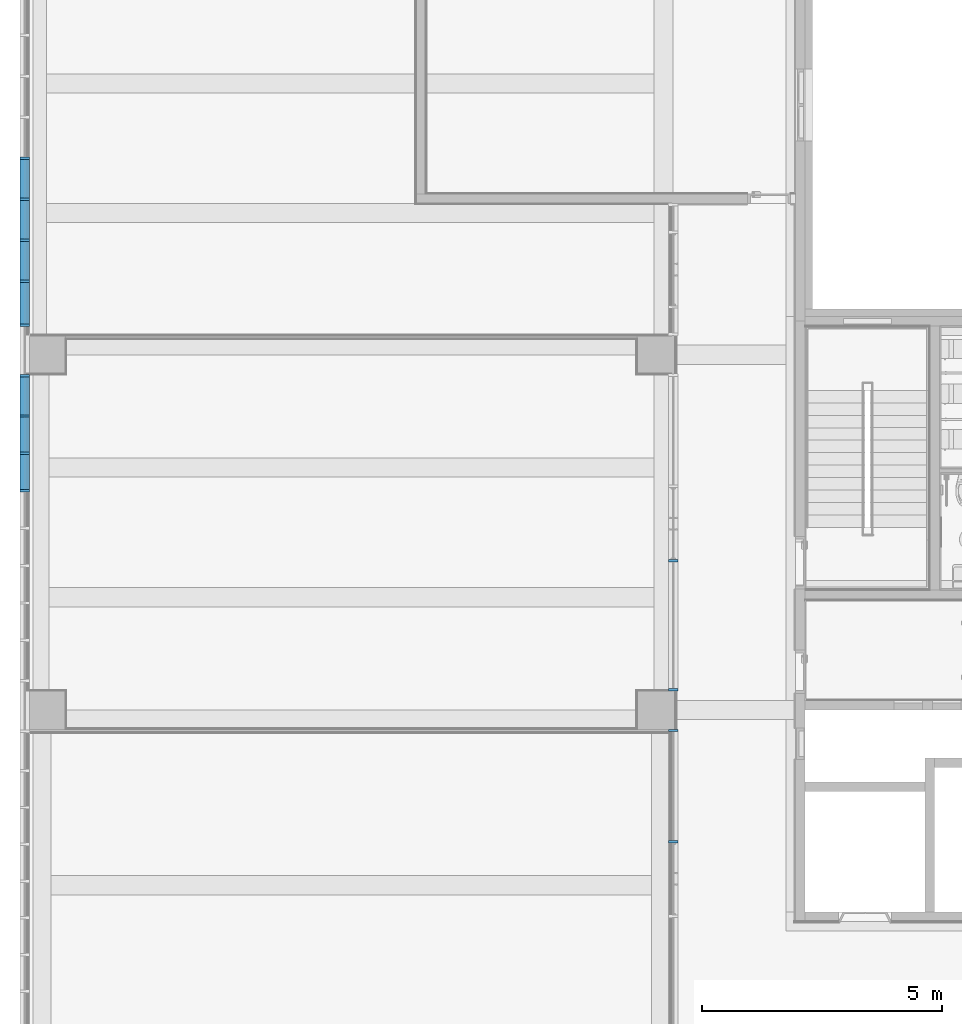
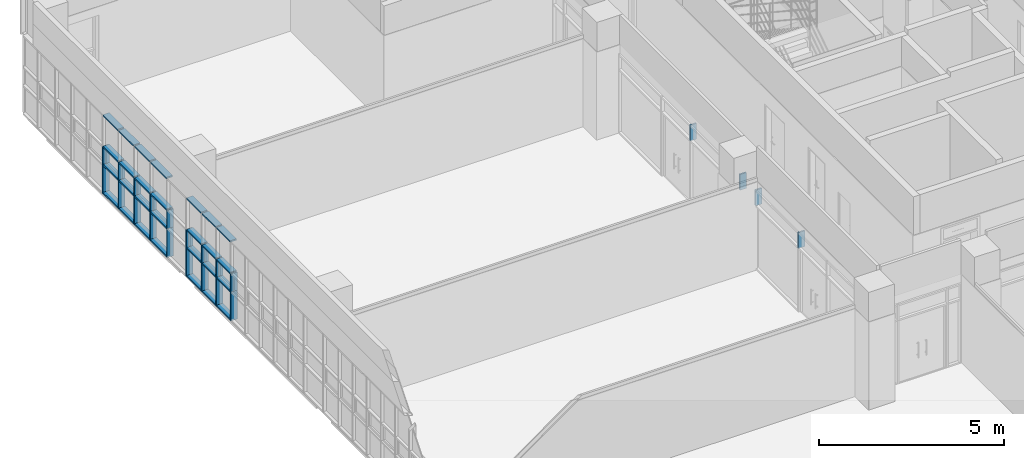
# One storey, part 19 of 76: 50 members, 3 elements without a shape of their own.
"""IFC2X3 building model written with IfcOpenShell, lengths in millimetres."""

from ifc_helpers import new_model, entity, si_unit, converted_unit, derived_unit, direction, frame, origin, origin_2d_with_axis, place, context, subcontext, project, spatial, rectangle, extrude, source, transform, mapped, material, type_object, type_shapes, element, aggregate, save


model = new_model("IFC2X3")

# Units and contexts
model_context = context("Model", 3, precision=0.01, world=origin(), true_north=direction((6.123031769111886e-17, 1.0)))
body_context = subcontext(model_context, "Body", "Model", "MODEL_VIEW")
ifc_project = project(units=[si_unit("LENGTHUNIT", "METRE", prefix="MILLI"), si_unit("AREAUNIT", "SQUARE_METRE"), si_unit("VOLUMEUNIT", "CUBIC_METRE"), converted_unit("PLANEANGLEUNIT", "DEGREE", entity("IfcRatioMeasure", 0.017453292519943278), si_unit("PLANEANGLEUNIT", "RADIAN"), dimensions=[0, 0, 0, 0, 0, 0, 0]), si_unit("MASSUNIT", "GRAM", prefix="KILO"), derived_unit("MASSDENSITYUNIT", [(si_unit("MASSUNIT", "GRAM", prefix="KILO"), 1), (si_unit("LENGTHUNIT", "METRE"), -3)]), derived_unit("MOMENTOFINERTIAUNIT", [(si_unit("LENGTHUNIT", "METRE"), 4)]), si_unit("TIMEUNIT", "SECOND"), si_unit("FREQUENCYUNIT", "HERTZ"), si_unit("THERMODYNAMICTEMPERATUREUNIT", "DEGREE_CELSIUS"), derived_unit("THERMALTRANSMITTANCEUNIT", [(si_unit("MASSUNIT", "GRAM", prefix="KILO"), 1), (si_unit("THERMODYNAMICTEMPERATUREUNIT", "KELVIN"), -1), (si_unit("TIMEUNIT", "SECOND"), -3)]), derived_unit("VOLUMETRICFLOWRATEUNIT", [(si_unit("LENGTHUNIT", "METRE"), 3), (si_unit("TIMEUNIT", "SECOND"), -1)]), derived_unit("MASSFLOWRATEUNIT", [(si_unit("MASSUNIT", "GRAM", prefix="KILO"), 1), (si_unit("TIMEUNIT", "SECOND"), -1)]), derived_unit("ROTATIONALFREQUENCYUNIT", [(si_unit("TIMEUNIT", "SECOND"), -1)]), si_unit("ELECTRICCURRENTUNIT", "AMPERE"), si_unit("ELECTRICVOLTAGEUNIT", "VOLT"), si_unit("POWERUNIT", "WATT"), si_unit("FORCEUNIT", "NEWTON", prefix="KILO"), si_unit("ILLUMINANCEUNIT", "LUX"), si_unit("LUMINOUSFLUXUNIT", "LUMEN"), si_unit("LUMINOUSINTENSITYUNIT", "CANDELA"), derived_unit("USERDEFINED", [(si_unit("MASSUNIT", "GRAM", prefix="KILO"), -1), (si_unit("LENGTHUNIT", "METRE"), -2), (si_unit("TIMEUNIT", "SECOND"), 3), (si_unit("LUMINOUSFLUXUNIT", "LUMEN"), 1)]), derived_unit("SOUNDPOWERUNIT", [(si_unit("MASSUNIT", "GRAM", prefix="KILO"), 1), (si_unit("LENGTHUNIT", "METRE"), 2), (si_unit("TIMEUNIT", "SECOND"), -3)]), derived_unit("SOUNDPRESSUREUNIT", [(si_unit("MASSUNIT", "GRAM", prefix="KILO"), 1), (si_unit("LENGTHUNIT", "METRE"), -1), (si_unit("TIMEUNIT", "SECOND"), -2)]), derived_unit("LINEARVELOCITYUNIT", [(si_unit("LENGTHUNIT", "METRE"), 1), (si_unit("TIMEUNIT", "SECOND"), -1)]), si_unit("PRESSUREUNIT", "PASCAL"), derived_unit("USERDEFINED", [(si_unit("LENGTHUNIT", "METRE"), -2), (si_unit("MASSUNIT", "GRAM", prefix="KILO"), 1), (si_unit("TIMEUNIT", "SECOND"), -2)]), derived_unit("LINEARFORCEUNIT", [(si_unit("MASSUNIT", "GRAM", prefix="KILO"), 1), (si_unit("LENGTHUNIT", "METRE"), 1), (si_unit("TIMEUNIT", "SECOND"), -2), (si_unit("LENGTHUNIT", "METRE"), -1)]), derived_unit("PLANARFORCEUNIT", [(si_unit("MASSUNIT", "GRAM", prefix="KILO"), 1), (si_unit("LENGTHUNIT", "METRE"), 1), (si_unit("TIMEUNIT", "SECOND"), -2), (si_unit("LENGTHUNIT", "METRE"), -2)])], contexts=[model_context])

# Site, building, storey
site_placement = place(None, frame((-14167.972527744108, -657.2125860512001, 0.0)))
site = spatial("IfcSite", under=ifc_project, at=site_placement, Name="Default", CompositionType="ELEMENT")
building_placement = place(site_placement, origin())
building = spatial("IfcBuilding", under=site, at=building_placement, Name="Sample Building", CompositionType="ELEMENT")
storey_placement = place(building_placement, frame((0.0, 0.0, 9300.0)))
storey = spatial("IfcBuildingStorey", under=building, at=storey_placement, Name="지상 3층", CompositionType="ELEMENT", Elevation=9300.000000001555)

# Curtain wall, members
curtain_wall_type = type_object("IfcCurtainWallType", Name="커튼월:CW112-스테인리스 스틸 커튼월", PredefinedType="NOTDEFINED")
curtain_wall_1_placement = place(storey_placement, frame((0.0, 0.0, -9300.0)))
curtain_wall_1 = element("IfcCurtainWall", 1, at=curtain_wall_1_placement, inside=storey, type_object=curtain_wall_type, Name="커튼월:CW112-스테인리스 스틸 커튼월", ObjectType="커튼월:CW112-스테인리스 스틸 커튼월")
ifc_material = material(Name="<Unnamed>")
member_type_1 = type_object("IfcMemberType", Name="직사각형 멀리언:CW200-직사각형 멀리언 50x200mm", PredefinedType="MULLION", material=ifc_material)
shared_shape_1 = source(origin(), body_context, "Body", "SweptSolid", [
    extrude(rectangle(XDim=200.0, YDim=50.0, at=origin_2d_with_axis()), frame((0.0, 0.0, -600.0), z_axis=(0.0, 0.0, 1.0), x_axis=(0.0, -1.0, 0.0)), (0.0, 0.0, 1.0), 600.0),
])
type_shapes(member_type_1, [shared_shape_1])
member_1_placement = place(curtain_wall_1_placement, frame((14018.587904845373, 31447.817707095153, 10330.0), z_axis=(0.0, 0.0, -1.0), x_axis=(0.0, -1.0, 0.0)))
member_1 = element("IfcMember", 2, at=member_1_placement, type_object=member_type_1, material=ifc_material, Name="직사각형 멀리언:CW200-직사각형 멀리언 50x200mm", ObjectType="직사각형 멀리언:CW200-직사각형 멀리언 50x200mm", context=body_context, shape_type="MappedRepresentation", body=[
    mapped(shared_shape_1, transform((0.0, 0.0, 0.0), scale=1.0)),
])
member_2_placement = place(curtain_wall_1_placement, frame((14018.587904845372, 30593.817707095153, 10330.0), z_axis=(0.0, 0.0, -1.0), x_axis=(0.0, -1.0, 0.0)))
member_2 = element("IfcMember", 3, at=member_2_placement, type_object=member_type_1, material=ifc_material, Name="직사각형 멀리언:CW200-직사각형 멀리언 50x200mm", ObjectType="직사각형 멀리언:CW200-직사각형 멀리언 50x200mm", context=body_context, shape_type="MappedRepresentation", body=[
    mapped(shared_shape_1, transform((0.0, 0.0, 0.0), scale=1.0)),
])
member_3_placement = place(curtain_wall_1_placement, frame((14018.587904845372, 29739.81770709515, 10330.0), z_axis=(0.0, 0.0, -1.0), x_axis=(0.0, -1.0, 0.0)))
member_3 = element("IfcMember", 4, at=member_3_placement, type_object=member_type_1, material=ifc_material, Name="직사각형 멀리언:CW200-직사각형 멀리언 50x200mm", ObjectType="직사각형 멀리언:CW200-직사각형 멀리언 50x200mm", context=body_context, shape_type="MappedRepresentation", body=[
    mapped(shared_shape_1, transform((0.0, 0.0, 0.0), scale=1.0)),
])
member_4_placement = place(curtain_wall_1_placement, frame((14018.58790484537, 28885.81770709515, 10330.0), z_axis=(0.0, 0.0, -1.0), x_axis=(0.0, -1.0, 0.0)))
member_4 = element("IfcMember", 5, at=member_4_placement, type_object=member_type_1, material=ifc_material, Name="직사각형 멀리언:CW200-직사각형 멀리언 50x200mm", ObjectType="직사각형 멀리언:CW200-직사각형 멀리언 50x200mm", context=body_context, shape_type="MappedRepresentation", body=[
    mapped(shared_shape_1, transform((0.0, 0.0, 0.0), scale=1.0)),
])
member_5_placement = place(curtain_wall_1_placement, frame((14018.58790484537, 27971.81770709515, 10330.0), z_axis=(0.0, 0.0, -1.0), x_axis=(0.0, -1.0, 0.0)))
member_5 = element("IfcMember", 6, at=member_5_placement, type_object=member_type_1, material=ifc_material, Name="직사각형 멀리언:CW200-직사각형 멀리언 50x200mm", ObjectType="직사각형 멀리언:CW200-직사각형 멀리언 50x200mm", context=body_context, shape_type="MappedRepresentation", body=[
    mapped(shared_shape_1, transform((0.0, 0.0, 0.0), scale=1.0)),
])
member_6_placement = place(curtain_wall_1_placement, frame((14018.587904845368, 26921.81770709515, 10330.0), z_axis=(0.0, 0.0, -1.0), x_axis=(0.0, -1.0, 0.0)))
member_6 = element("IfcMember", 7, at=member_6_placement, type_object=member_type_1, material=ifc_material, Name="직사각형 멀리언:CW200-직사각형 멀리언 50x200mm", ObjectType="직사각형 멀리언:CW200-직사각형 멀리언 50x200mm", context=body_context, shape_type="MappedRepresentation", body=[
    mapped(shared_shape_1, transform((0.0, 0.0, 0.0), scale=1.0)),
])
member_7_placement = place(curtain_wall_1_placement, frame((14018.587904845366, 26082.81770709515, 10330.0), z_axis=(0.0, 0.0, -1.0), x_axis=(0.0, -1.0, 0.0)))
member_7 = element("IfcMember", 8, at=member_7_placement, type_object=member_type_1, material=ifc_material, Name="직사각형 멀리언:CW200-직사각형 멀리언 50x200mm", ObjectType="직사각형 멀리언:CW200-직사각형 멀리언 50x200mm", context=body_context, shape_type="MappedRepresentation", body=[
    mapped(shared_shape_1, transform((0.0, 0.0, 0.0), scale=1.0)),
])
member_8_placement = place(curtain_wall_1_placement, frame((14018.587904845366, 25303.81770709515, 10330.0), z_axis=(0.0, 0.0, -1.0), x_axis=(0.0, -1.0, 0.0)))
member_8 = element("IfcMember", 9, at=member_8_placement, type_object=member_type_1, material=ifc_material, Name="직사각형 멀리언:CW200-직사각형 멀리언 50x200mm", ObjectType="직사각형 멀리언:CW200-직사각형 멀리언 50x200mm", context=body_context, shape_type="MappedRepresentation", body=[
    mapped(shared_shape_1, transform((0.0, 0.0, 0.0), scale=1.0)),
])
member_9_placement = place(curtain_wall_1_placement, frame((14018.587904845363, 24524.81770709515, 10330.0), z_axis=(0.0, 0.0, -1.0), x_axis=(0.0, -1.0, 0.0)))
member_9 = element("IfcMember", 10, at=member_9_placement, type_object=member_type_1, material=ifc_material, Name="직사각형 멀리언:CW200-직사각형 멀리언 50x200mm", ObjectType="직사각형 멀리언:CW200-직사각형 멀리언 50x200mm", context=body_context, shape_type="MappedRepresentation", body=[
    mapped(shared_shape_1, transform((0.0, 0.0, 0.0), scale=1.0)),
])

# Curtain wall, member
curtain_wall_2_placement = place(storey_placement, frame((0.0, 0.0, -9300.0)))
curtain_wall_2 = element("IfcCurtainWall", 11, at=curtain_wall_2_placement, inside=storey, type_object=curtain_wall_type, Name="커튼월:CW112-스테인리스 스틸 커튼월", ObjectType="커튼월:CW112-스테인리스 스틸 커튼월")
member_type_2 = type_object("IfcMemberType", Name="직사각형 멀리언:CW200-직사각형 멀리언 50x200mm", PredefinedType="MULLION", material=ifc_material)
shared_shape_2 = source(origin(), body_context, "Body", "SweptSolid", [
    extrude(rectangle(XDim=200.0, YDim=50.0, at=origin_2d_with_axis()), frame((-25.0, 0.0, -520.0), z_axis=(0.0, 0.0, 1.0), x_axis=(0.0, -1.0, 0.0)), (0.0, 0.0, 1.0), 520.0000000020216),
])
type_shapes(member_type_2, [shared_shape_2])
member_10_placement = place(curtain_wall_2_placement, frame((27522.955105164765, 19557.212617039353, 12000.0), z_axis=(0.0, 0.0, 1.0), x_axis=(0.0, 1.0, 0.0)))
member_10 = element("IfcMember", 12, at=member_10_placement, type_object=member_type_2, material=ifc_material, Name="직사각형 멀리언:CW200-직사각형 멀리언 50x200mm", ObjectType="직사각형 멀리언:CW200-직사각형 멀리언 50x200mm", context=body_context, shape_type="MappedRepresentation", body=[
    mapped(shared_shape_2, transform((0.0, 0.0, 0.0), scale=1.0)),
])

# Curtain wall, members
curtain_wall_3_placement = place(storey_placement, frame((0.0, 0.0, -9300.0)))
curtain_wall_3 = element("IfcCurtainWall", 13, at=curtain_wall_3_placement, inside=storey, type_object=curtain_wall_type, Name="커튼월:CW112-스테인리스 스틸 커튼월", ObjectType="커튼월:CW112-스테인리스 스틸 커튼월")
member_type_3 = type_object("IfcMemberType", Name="직사각형 멀리언:CW200-직사각형 멀리언 50x200mm", PredefinedType="MULLION", material=ifc_material)
shared_shape_3 = source(origin(), body_context, "Body", "SweptSolid", [
    extrude(rectangle(XDim=200.0, YDim=50.0, at=origin_2d_with_axis()), frame((-25.0, 0.0, -520.0), z_axis=(0.0, 0.0, 1.0), x_axis=(0.0, -1.0, 0.0)), (0.0, 0.0, 1.0), 520.0000000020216),
])
type_shapes(member_type_3, [shared_shape_3])
member_11_placement = place(curtain_wall_3_placement, frame((27522.95510516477, 20357.212307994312, 11480.0), z_axis=(0.0, 0.0, -1.0), x_axis=(0.0, -1.0, 0.0)))
member_11 = element("IfcMember", 14, at=member_11_placement, type_object=member_type_3, material=ifc_material, Name="직사각형 멀리언:CW200-직사각형 멀리언 50x200mm", ObjectType="직사각형 멀리언:CW200-직사각형 멀리언 50x200mm", context=body_context, shape_type="MappedRepresentation", body=[
    mapped(shared_shape_3, transform((0.0, 0.0, 0.0), scale=1.0)),
])
member_type_4 = type_object("IfcMemberType", Name="직사각형 멀리언:CW200-직사각형 멀리언 50x200mm", PredefinedType="MULLION", material=ifc_material)
shared_shape_4 = source(origin(), body_context, "Body", "SweptSolid", [
    extrude(rectangle(XDim=200.0, YDim=50.0, at=origin_2d_with_axis()), frame((0.0, 0.0, -520.0), z_axis=(0.0, 0.0, 1.0), x_axis=(0.0, -1.0, 0.0)), (0.0, 0.0, 1.0), 520.0000000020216),
])
type_shapes(member_type_4, [shared_shape_4])
member_12_placement = place(curtain_wall_3_placement, frame((27522.955105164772, 23067.212307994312, 11480.0), z_axis=(0.0, 0.0, -1.0), x_axis=(0.0, -1.0, 0.0)))
member_12 = element("IfcMember", 15, at=member_12_placement, type_object=member_type_4, material=ifc_material, Name="직사각형 멀리언:CW200-직사각형 멀리언 50x200mm", ObjectType="직사각형 멀리언:CW200-직사각형 멀리언 50x200mm", context=body_context, shape_type="MappedRepresentation", body=[
    mapped(shared_shape_4, transform((0.0, 0.0, 0.0), scale=1.0)),
])
aggregate(curtain_wall_3, [member_11, member_12])

# Member
member_13_placement = place(curtain_wall_2_placement, frame((27522.95510516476, 17217.17762439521, 11480.0), z_axis=(0.0, 0.0, -1.0), x_axis=(0.0, -1.0, 0.0)))
member_13 = element("IfcMember", 16, at=member_13_placement, type_object=member_type_4, material=ifc_material, Name="직사각형 멀리언:CW200-직사각형 멀리언 50x200mm", ObjectType="직사각형 멀리언:CW200-직사각형 멀리언 50x200mm", context=body_context, shape_type="MappedRepresentation", body=[
    mapped(shared_shape_4, transform((0.0, 0.0, 0.0), scale=1.0)),
])

aggregate(curtain_wall_2, [member_10, member_13])

member_type_5 = type_object("IfcMemberType", Name="직사각형 멀리언:CW200-직사각형 멀리언 50x200mm", PredefinedType="MULLION", material=ifc_material)
shared_shape_5 = source(origin(), body_context, "Body", "SweptSolid", [
    extrude(rectangle(XDim=200.0, YDim=50.0, at=origin_2d_with_axis()), frame((0.0, 0.0, -950.0), z_axis=(0.0, 0.0, 1.0), x_axis=(0.0, -1.0, 0.0)), (0.0, 0.0, 1.0), 949.9999999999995),
])
type_shapes(member_type_5, [shared_shape_5])
member_14_placement = place(curtain_wall_1_placement, frame((14018.587904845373, 31447.817707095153, 9380.0), z_axis=(0.0, 0.0, -1.0), x_axis=(0.0, -1.0, 0.0)))
member_14 = element("IfcMember", 17, at=member_14_placement, type_object=member_type_5, material=ifc_material, Name="직사각형 멀리언:CW200-직사각형 멀리언 50x200mm", ObjectType="직사각형 멀리언:CW200-직사각형 멀리언 50x200mm", context=body_context, shape_type="MappedRepresentation", body=[
    mapped(shared_shape_5, transform((0.0, 0.0, 0.0), scale=1.0)),
])

member_15_placement = place(curtain_wall_1_placement, frame((14018.587904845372, 30593.817707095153, 9380.0), z_axis=(0.0, 0.0, -1.0), x_axis=(0.0, -1.0, 0.0)))
member_15 = element("IfcMember", 18, at=member_15_placement, type_object=member_type_5, material=ifc_material, Name="직사각형 멀리언:CW200-직사각형 멀리언 50x200mm", ObjectType="직사각형 멀리언:CW200-직사각형 멀리언 50x200mm", context=body_context, shape_type="MappedRepresentation", body=[
    mapped(shared_shape_5, transform((0.0, 0.0, 0.0), scale=1.0)),
])

member_16_placement = place(curtain_wall_1_placement, frame((14018.587904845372, 29739.81770709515, 9380.0), z_axis=(0.0, 0.0, -1.0), x_axis=(0.0, -1.0, 0.0)))
member_16 = element("IfcMember", 19, at=member_16_placement, type_object=member_type_5, material=ifc_material, Name="직사각형 멀리언:CW200-직사각형 멀리언 50x200mm", ObjectType="직사각형 멀리언:CW200-직사각형 멀리언 50x200mm", context=body_context, shape_type="MappedRepresentation", body=[
    mapped(shared_shape_5, transform((0.0, 0.0, 0.0), scale=1.0)),
])

member_17_placement = place(curtain_wall_1_placement, frame((14018.58790484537, 28885.81770709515, 9380.0), z_axis=(0.0, 0.0, -1.0), x_axis=(0.0, -1.0, 0.0)))
member_17 = element("IfcMember", 20, at=member_17_placement, type_object=member_type_5, material=ifc_material, Name="직사각형 멀리언:CW200-직사각형 멀리언 50x200mm", ObjectType="직사각형 멀리언:CW200-직사각형 멀리언 50x200mm", context=body_context, shape_type="MappedRepresentation", body=[
    mapped(shared_shape_5, transform((0.0, 0.0, 0.0), scale=1.0)),
])

member_18_placement = place(curtain_wall_1_placement, frame((14018.58790484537, 27971.81770709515, 9380.0), z_axis=(0.0, 0.0, -1.0), x_axis=(0.0, -1.0, 0.0)))
member_18 = element("IfcMember", 21, at=member_18_placement, type_object=member_type_5, material=ifc_material, Name="직사각형 멀리언:CW200-직사각형 멀리언 50x200mm", ObjectType="직사각형 멀리언:CW200-직사각형 멀리언 50x200mm", context=body_context, shape_type="MappedRepresentation", body=[
    mapped(shared_shape_5, transform((0.0, 0.0, 0.0), scale=1.0)),
])

member_19_placement = place(curtain_wall_1_placement, frame((14018.587904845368, 26921.81770709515, 9380.0), z_axis=(0.0, 0.0, -1.0), x_axis=(0.0, -1.0, 0.0)))
member_19 = element("IfcMember", 22, at=member_19_placement, type_object=member_type_5, material=ifc_material, Name="직사각형 멀리언:CW200-직사각형 멀리언 50x200mm", ObjectType="직사각형 멀리언:CW200-직사각형 멀리언 50x200mm", context=body_context, shape_type="MappedRepresentation", body=[
    mapped(shared_shape_5, transform((0.0, 0.0, 0.0), scale=1.0)),
])

member_20_placement = place(curtain_wall_1_placement, frame((14018.587904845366, 26082.81770709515, 9380.0), z_axis=(0.0, 0.0, -1.0), x_axis=(0.0, -1.0, 0.0)))
member_20 = element("IfcMember", 23, at=member_20_placement, type_object=member_type_5, material=ifc_material, Name="직사각형 멀리언:CW200-직사각형 멀리언 50x200mm", ObjectType="직사각형 멀리언:CW200-직사각형 멀리언 50x200mm", context=body_context, shape_type="MappedRepresentation", body=[
    mapped(shared_shape_5, transform((0.0, 0.0, 0.0), scale=1.0)),
])

member_21_placement = place(curtain_wall_1_placement, frame((14018.587904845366, 25303.81770709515, 9380.0), z_axis=(0.0, 0.0, -1.0), x_axis=(0.0, -1.0, 0.0)))
member_21 = element("IfcMember", 24, at=member_21_placement, type_object=member_type_5, material=ifc_material, Name="직사각형 멀리언:CW200-직사각형 멀리언 50x200mm", ObjectType="직사각형 멀리언:CW200-직사각형 멀리언 50x200mm", context=body_context, shape_type="MappedRepresentation", body=[
    mapped(shared_shape_5, transform((0.0, 0.0, 0.0), scale=1.0)),
])

member_22_placement = place(curtain_wall_1_placement, frame((14018.587904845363, 24524.81770709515, 9380.0), z_axis=(0.0, 0.0, -1.0), x_axis=(0.0, -1.0, 0.0)))
member_22 = element("IfcMember", 25, at=member_22_placement, type_object=member_type_5, material=ifc_material, Name="직사각형 멀리언:CW200-직사각형 멀리언 50x200mm", ObjectType="직사각형 멀리언:CW200-직사각형 멀리언 50x200mm", context=body_context, shape_type="MappedRepresentation", body=[
    mapped(shared_shape_5, transform((0.0, 0.0, 0.0), scale=1.0)),
])

member_type_6 = type_object("IfcMemberType", Name="직사각형 멀리언:CW200-직사각형 멀리언 50x200mm", PredefinedType="MULLION", material=ifc_material)
shared_shape_6 = source(origin(), body_context, "Body", "SweptSolid", [
    extrude(rectangle(XDim=200.0, YDim=50.0, at=origin_2d_with_axis()), frame((-25.0, 0.0, -804.0), z_axis=(0.0, 0.0, 1.0), x_axis=(0.0, -1.0, 0.0)), (0.0, 0.0, 1.0), 804.0000000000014),
])
type_shapes(member_type_6, [shared_shape_6])
member_23_placement = place(curtain_wall_1_placement, frame((14018.587904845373, 31422.817707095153, 9380.0), z_axis=(0.0, 1.0, 0.0), x_axis=(0.0, 0.0, -1.0)))
member_23 = element("IfcMember", 26, at=member_23_placement, type_object=member_type_6, material=ifc_material, Name="직사각형 멀리언:CW200-직사각형 멀리언 50x200mm", ObjectType="직사각형 멀리언:CW200-직사각형 멀리언 50x200mm", context=body_context, shape_type="MappedRepresentation", body=[
    mapped(shared_shape_6, transform((0.0, 0.0, 0.0), scale=1.0)),
])

member_24_placement = place(curtain_wall_1_placement, frame((14018.587904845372, 30568.817707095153, 9380.0), z_axis=(0.0, 1.0, 0.0), x_axis=(0.0, 0.0, -1.0)))
member_24 = element("IfcMember", 27, at=member_24_placement, type_object=member_type_6, material=ifc_material, Name="직사각형 멀리언:CW200-직사각형 멀리언 50x200mm", ObjectType="직사각형 멀리언:CW200-직사각형 멀리언 50x200mm", context=body_context, shape_type="MappedRepresentation", body=[
    mapped(shared_shape_6, transform((0.0, 0.0, 0.0), scale=1.0)),
])

member_25_placement = place(curtain_wall_1_placement, frame((14018.587904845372, 29714.817707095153, 9380.0), z_axis=(0.0, 1.0, 0.0), x_axis=(0.0, 0.0, -1.0)))
member_25 = element("IfcMember", 28, at=member_25_placement, type_object=member_type_6, material=ifc_material, Name="직사각형 멀리언:CW200-직사각형 멀리언 50x200mm", ObjectType="직사각형 멀리언:CW200-직사각형 멀리언 50x200mm", context=body_context, shape_type="MappedRepresentation", body=[
    mapped(shared_shape_6, transform((0.0, 0.0, 0.0), scale=1.0)),
])

member_type_7 = type_object("IfcMemberType", Name="직사각형 멀리언:CW200-직사각형 멀리언 50x200mm", PredefinedType="MULLION", material=ifc_material)
shared_shape_7 = source(origin(), body_context, "Body", "SweptSolid", [
    extrude(rectangle(XDim=200.0, YDim=50.0, at=origin_2d_with_axis()), frame((0.0, 0.0, -804.0), z_axis=(0.0, 0.0, 1.0), x_axis=(0.0, -1.0, 0.0)), (0.0, 0.0, 1.0), 803.9999999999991),
])
type_shapes(member_type_7, [shared_shape_7])
member_26_placement = place(curtain_wall_1_placement, frame((14018.587904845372, 30618.81770709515, 10330.0), z_axis=(0.0, -1.0, 0.0), x_axis=(0.0, 0.0, 1.0)))
member_26 = element("IfcMember", 29, at=member_26_placement, type_object=member_type_7, material=ifc_material, Name="직사각형 멀리언:CW200-직사각형 멀리언 50x200mm", ObjectType="직사각형 멀리언:CW200-직사각형 멀리언 50x200mm", context=body_context, shape_type="MappedRepresentation", body=[
    mapped(shared_shape_7, transform((0.0, 0.0, 0.0), scale=1.0)),
])

member_27_placement = place(curtain_wall_1_placement, frame((14018.587904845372, 30618.81770709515, 10930.0), z_axis=(0.0, -1.0, 0.0), x_axis=(0.0, 0.0, 1.0)))
member_27 = element("IfcMember", 30, at=member_27_placement, type_object=member_type_7, material=ifc_material, Name="직사각형 멀리언:CW200-직사각형 멀리언 50x200mm", ObjectType="직사각형 멀리언:CW200-직사각형 멀리언 50x200mm", context=body_context, shape_type="MappedRepresentation", body=[
    mapped(shared_shape_7, transform((0.0, 0.0, 0.0), scale=1.0)),
])

member_28_placement = place(curtain_wall_1_placement, frame((14018.587904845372, 29764.81770709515, 10330.0), z_axis=(0.0, -1.0, 0.0), x_axis=(0.0, 0.0, 1.0)))
member_28 = element("IfcMember", 31, at=member_28_placement, type_object=member_type_7, material=ifc_material, Name="직사각형 멀리언:CW200-직사각형 멀리언 50x200mm", ObjectType="직사각형 멀리언:CW200-직사각형 멀리언 50x200mm", context=body_context, shape_type="MappedRepresentation", body=[
    mapped(shared_shape_7, transform((0.0, 0.0, 0.0), scale=1.0)),
])

member_29_placement = place(curtain_wall_1_placement, frame((14018.587904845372, 29764.81770709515, 10930.0), z_axis=(0.0, -1.0, 0.0), x_axis=(0.0, 0.0, 1.0)))
member_29 = element("IfcMember", 32, at=member_29_placement, type_object=member_type_7, material=ifc_material, Name="직사각형 멀리언:CW200-직사각형 멀리언 50x200mm", ObjectType="직사각형 멀리언:CW200-직사각형 멀리언 50x200mm", context=body_context, shape_type="MappedRepresentation", body=[
    mapped(shared_shape_7, transform((0.0, 0.0, 0.0), scale=1.0)),
])

member_30_placement = place(curtain_wall_1_placement, frame((14018.58790484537, 28910.81770709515, 10330.0), z_axis=(0.0, -1.0, 0.0), x_axis=(0.0, 0.0, 1.0)))
member_30 = element("IfcMember", 33, at=member_30_placement, type_object=member_type_7, material=ifc_material, Name="직사각형 멀리언:CW200-직사각형 멀리언 50x200mm", ObjectType="직사각형 멀리언:CW200-직사각형 멀리언 50x200mm", context=body_context, shape_type="MappedRepresentation", body=[
    mapped(shared_shape_7, transform((0.0, 0.0, 0.0), scale=1.0)),
])

member_31_placement = place(curtain_wall_1_placement, frame((14018.58790484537, 28910.81770709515, 10930.0), z_axis=(0.0, -1.0, 0.0), x_axis=(0.0, 0.0, 1.0)))
member_31 = element("IfcMember", 34, at=member_31_placement, type_object=member_type_7, material=ifc_material, Name="직사각형 멀리언:CW200-직사각형 멀리언 50x200mm", ObjectType="직사각형 멀리언:CW200-직사각형 멀리언 50x200mm", context=body_context, shape_type="MappedRepresentation", body=[
    mapped(shared_shape_7, transform((0.0, 0.0, 0.0), scale=1.0)),
])

member_type_8 = type_object("IfcMemberType", Name="직사각형 멀리언:CW200-직사각형 멀리언 50x200mm", PredefinedType="MULLION", material=ifc_material)
shared_shape_8 = source(origin(), body_context, "Body", "SweptSolid", [
    extrude(rectangle(XDim=200.0, YDim=50.0, at=origin_2d_with_axis()), frame((-25.0, 0.0, -804.0), z_axis=(0.0, 0.0, 1.0), x_axis=(0.0, -1.0, 0.0)), (0.0, 0.0, 1.0), 803.9999999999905),
])
type_shapes(member_type_8, [shared_shape_8])
member_32_placement = place(curtain_wall_1_placement, frame((14018.587904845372, 30618.81770709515, 12000.0), z_axis=(0.0, -1.0, 0.0), x_axis=(0.0, 0.0, 1.0)))
member_32 = element("IfcMember", 35, at=member_32_placement, type_object=member_type_8, material=ifc_material, Name="직사각형 멀리언:CW200-직사각형 멀리언 50x200mm", ObjectType="직사각형 멀리언:CW200-직사각형 멀리언 50x200mm", context=body_context, shape_type="MappedRepresentation", body=[
    mapped(shared_shape_8, transform((0.0, 0.0, 0.0), scale=1.0)),
])

member_33_placement = place(curtain_wall_1_placement, frame((14018.587904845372, 29764.81770709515, 12000.0), z_axis=(0.0, -1.0, 0.0), x_axis=(0.0, 0.0, 1.0)))
member_33 = element("IfcMember", 36, at=member_33_placement, type_object=member_type_8, material=ifc_material, Name="직사각형 멀리언:CW200-직사각형 멀리언 50x200mm", ObjectType="직사각형 멀리언:CW200-직사각형 멀리언 50x200mm", context=body_context, shape_type="MappedRepresentation", body=[
    mapped(shared_shape_8, transform((0.0, 0.0, 0.0), scale=1.0)),
])

member_34_placement = place(curtain_wall_1_placement, frame((14018.58790484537, 28910.81770709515, 12000.0), z_axis=(0.0, -1.0, 0.0), x_axis=(0.0, 0.0, 1.0)))
member_34 = element("IfcMember", 37, at=member_34_placement, type_object=member_type_8, material=ifc_material, Name="직사각형 멀리언:CW200-직사각형 멀리언 50x200mm", ObjectType="직사각형 멀리언:CW200-직사각형 멀리언 50x200mm", context=body_context, shape_type="MappedRepresentation", body=[
    mapped(shared_shape_8, transform((0.0, 0.0, 0.0), scale=1.0)),
])

member_type_9 = type_object("IfcMemberType", Name="직사각형 멀리언:CW200-직사각형 멀리언 50x200mm", PredefinedType="MULLION", material=ifc_material)
shared_shape_9 = source(origin(), body_context, "Body", "SweptSolid", [
    extrude(rectangle(XDim=200.0, YDim=50.0, at=origin_2d_with_axis()), frame((-25.0, 0.0, -864.0), z_axis=(0.0, 0.0, 1.0), x_axis=(0.0, -1.0, 0.0)), (0.0, 0.0, 1.0), 864.0000000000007),
])
type_shapes(member_type_9, [shared_shape_9])
member_35_placement = place(curtain_wall_1_placement, frame((14018.58790484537, 28860.81770709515, 9380.0), z_axis=(0.0, 1.0, 0.0), x_axis=(0.0, 0.0, -1.0)))
member_35 = element("IfcMember", 38, at=member_35_placement, type_object=member_type_9, material=ifc_material, Name="직사각형 멀리언:CW200-직사각형 멀리언 50x200mm", ObjectType="직사각형 멀리언:CW200-직사각형 멀리언 50x200mm", context=body_context, shape_type="MappedRepresentation", body=[
    mapped(shared_shape_9, transform((0.0, 0.0, 0.0), scale=1.0)),
])

member_type_10 = type_object("IfcMemberType", Name="직사각형 멀리언:CW200-직사각형 멀리언 50x200mm", PredefinedType="MULLION", material=ifc_material)
shared_shape_10 = source(origin(), body_context, "Body", "SweptSolid", [
    extrude(rectangle(XDim=200.0, YDim=50.0, at=origin_2d_with_axis()), frame((0.0, 0.0, -864.0), z_axis=(0.0, 0.0, 1.0), x_axis=(0.0, -1.0, 0.0)), (0.0, 0.0, 1.0), 863.9999999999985),
])
type_shapes(member_type_10, [shared_shape_10])
member_36_placement = place(curtain_wall_1_placement, frame((14018.58790484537, 27996.81770709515, 10330.0), z_axis=(0.0, -1.0, 0.0), x_axis=(0.0, 0.0, 1.0)))
member_36 = element("IfcMember", 39, at=member_36_placement, type_object=member_type_10, material=ifc_material, Name="직사각형 멀리언:CW200-직사각형 멀리언 50x200mm", ObjectType="직사각형 멀리언:CW200-직사각형 멀리언 50x200mm", context=body_context, shape_type="MappedRepresentation", body=[
    mapped(shared_shape_10, transform((0.0, 0.0, 0.0), scale=1.0)),
])

member_37_placement = place(curtain_wall_1_placement, frame((14018.58790484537, 27996.81770709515, 10930.0), z_axis=(0.0, -1.0, 0.0), x_axis=(0.0, 0.0, 1.0)))
member_37 = element("IfcMember", 40, at=member_37_placement, type_object=member_type_10, material=ifc_material, Name="직사각형 멀리언:CW200-직사각형 멀리언 50x200mm", ObjectType="직사각형 멀리언:CW200-직사각형 멀리언 50x200mm", context=body_context, shape_type="MappedRepresentation", body=[
    mapped(shared_shape_10, transform((0.0, 0.0, 0.0), scale=1.0)),
])

member_type_11 = type_object("IfcMemberType", Name="직사각형 멀리언:CW200-직사각형 멀리언 50x200mm", PredefinedType="MULLION", material=ifc_material)
shared_shape_11 = source(origin(), body_context, "Body", "SweptSolid", [
    extrude(rectangle(XDim=200.0, YDim=50.0, at=origin_2d_with_axis()), frame((-25.0, 0.0, -864.0), z_axis=(0.0, 0.0, 1.0), x_axis=(0.0, -1.0, 0.0)), (0.0, 0.0, 1.0), 863.9999999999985),
])
type_shapes(member_type_11, [shared_shape_11])
member_38_placement = place(curtain_wall_1_placement, frame((14018.58790484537, 27996.81770709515, 12000.0), z_axis=(0.0, -1.0, 0.0), x_axis=(0.0, 0.0, 1.0)))
member_38 = element("IfcMember", 41, at=member_38_placement, type_object=member_type_11, material=ifc_material, Name="직사각형 멀리언:CW200-직사각형 멀리언 50x200mm", ObjectType="직사각형 멀리언:CW200-직사각형 멀리언 50x200mm", context=body_context, shape_type="MappedRepresentation", body=[
    mapped(shared_shape_11, transform((0.0, 0.0, 0.0), scale=1.0)),
])

member_type_12 = type_object("IfcMemberType", Name="직사각형 멀리언:CW200-직사각형 멀리언 50x200mm", PredefinedType="MULLION", material=ifc_material)
shared_shape_12 = source(origin(), body_context, "Body", "SweptSolid", [
    extrude(rectangle(XDim=200.0, YDim=50.0, at=origin_2d_with_axis()), frame((-25.0, 0.0, -789.0), z_axis=(0.0, 0.0, 1.0), x_axis=(0.0, -1.0, 0.0)), (0.0, 0.0, 1.0), 789.0000000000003),
])
type_shapes(member_type_12, [shared_shape_12])
member_39_placement = place(curtain_wall_1_placement, frame((14018.587904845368, 26896.817707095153, 9380.0), z_axis=(0.0, 1.0, 0.0), x_axis=(0.0, 0.0, -1.0)))
member_39 = element("IfcMember", 42, at=member_39_placement, type_object=member_type_12, material=ifc_material, Name="직사각형 멀리언:CW200-직사각형 멀리언 50x200mm", ObjectType="직사각형 멀리언:CW200-직사각형 멀리언 50x200mm", context=body_context, shape_type="MappedRepresentation", body=[
    mapped(shared_shape_12, transform((0.0, 0.0, 0.0), scale=1.0)),
])

member_type_13 = type_object("IfcMemberType", Name="직사각형 멀리언:CW200-직사각형 멀리언 50x200mm", PredefinedType="MULLION", material=ifc_material)
shared_shape_13 = source(origin(), body_context, "Body", "SweptSolid", [
    extrude(rectangle(XDim=200.0, YDim=50.0, at=origin_2d_with_axis()), frame((0.0, 0.0, -789.0), z_axis=(0.0, 0.0, 1.0), x_axis=(0.0, -1.0, 0.0)), (0.0, 0.0, 1.0), 788.9999999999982),
])
type_shapes(member_type_13, [shared_shape_13])
member_40_placement = place(curtain_wall_1_placement, frame((14018.587904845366, 26107.81770709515, 10330.0), z_axis=(0.0, -1.0, 0.0), x_axis=(0.0, 0.0, 1.0)))
member_40 = element("IfcMember", 43, at=member_40_placement, type_object=member_type_13, material=ifc_material, Name="직사각형 멀리언:CW200-직사각형 멀리언 50x200mm", ObjectType="직사각형 멀리언:CW200-직사각형 멀리언 50x200mm", context=body_context, shape_type="MappedRepresentation", body=[
    mapped(shared_shape_13, transform((0.0, 0.0, 0.0), scale=1.0)),
])

member_41_placement = place(curtain_wall_1_placement, frame((14018.587904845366, 26107.81770709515, 10930.0), z_axis=(0.0, -1.0, 0.0), x_axis=(0.0, 0.0, 1.0)))
member_41 = element("IfcMember", 44, at=member_41_placement, type_object=member_type_13, material=ifc_material, Name="직사각형 멀리언:CW200-직사각형 멀리언 50x200mm", ObjectType="직사각형 멀리언:CW200-직사각형 멀리언 50x200mm", context=body_context, shape_type="MappedRepresentation", body=[
    mapped(shared_shape_13, transform((0.0, 0.0, 0.0), scale=1.0)),
])

member_type_14 = type_object("IfcMemberType", Name="직사각형 멀리언:CW200-직사각형 멀리언 50x200mm", PredefinedType="MULLION", material=ifc_material)
shared_shape_14 = source(origin(), body_context, "Body", "SweptSolid", [
    extrude(rectangle(XDim=200.0, YDim=50.0, at=origin_2d_with_axis()), frame((-25.0, 0.0, -789.0), z_axis=(0.0, 0.0, 1.0), x_axis=(0.0, -1.0, 0.0)), (0.0, 0.0, 1.0), 788.9999999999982),
])
type_shapes(member_type_14, [shared_shape_14])
member_42_placement = place(curtain_wall_1_placement, frame((14018.587904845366, 26107.81770709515, 12000.0), z_axis=(0.0, -1.0, 0.0), x_axis=(0.0, 0.0, 1.0)))
member_42 = element("IfcMember", 45, at=member_42_placement, type_object=member_type_14, material=ifc_material, Name="직사각형 멀리언:CW200-직사각형 멀리언 50x200mm", ObjectType="직사각형 멀리언:CW200-직사각형 멀리언 50x200mm", context=body_context, shape_type="MappedRepresentation", body=[
    mapped(shared_shape_14, transform((0.0, 0.0, 0.0), scale=1.0)),
])

member_type_15 = type_object("IfcMemberType", Name="직사각형 멀리언:CW200-직사각형 멀리언 50x200mm", PredefinedType="MULLION", material=ifc_material)
shared_shape_15 = source(origin(), body_context, "Body", "SweptSolid", [
    extrude(rectangle(XDim=200.0, YDim=50.0, at=origin_2d_with_axis()), frame((-25.0, 0.0, -729.0), z_axis=(0.0, 0.0, 1.0), x_axis=(0.0, -1.0, 0.0)), (0.0, 0.0, 1.0), 729.000000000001),
])
type_shapes(member_type_15, [shared_shape_15])
member_43_placement = place(curtain_wall_1_placement, frame((14018.587904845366, 26057.817707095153, 9380.0), z_axis=(0.0, 1.0, 0.0), x_axis=(0.0, 0.0, -1.0)))
member_43 = element("IfcMember", 46, at=member_43_placement, type_object=member_type_15, material=ifc_material, Name="직사각형 멀리언:CW200-직사각형 멀리언 50x200mm", ObjectType="직사각형 멀리언:CW200-직사각형 멀리언 50x200mm", context=body_context, shape_type="MappedRepresentation", body=[
    mapped(shared_shape_15, transform((0.0, 0.0, 0.0), scale=1.0)),
])

member_44_placement = place(curtain_wall_1_placement, frame((14018.587904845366, 25278.81770709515, 9380.0), z_axis=(0.0, 1.0, 0.0), x_axis=(0.0, 0.0, -1.0)))
member_44 = element("IfcMember", 47, at=member_44_placement, type_object=member_type_15, material=ifc_material, Name="직사각형 멀리언:CW200-직사각형 멀리언 50x200mm", ObjectType="직사각형 멀리언:CW200-직사각형 멀리언 50x200mm", context=body_context, shape_type="MappedRepresentation", body=[
    mapped(shared_shape_15, transform((0.0, 0.0, 0.0), scale=1.0)),
])

member_type_16 = type_object("IfcMemberType", Name="직사각형 멀리언:CW200-직사각형 멀리언 50x200mm", PredefinedType="MULLION", material=ifc_material)
shared_shape_16 = source(origin(), body_context, "Body", "SweptSolid", [
    extrude(rectangle(XDim=200.0, YDim=50.0, at=origin_2d_with_axis()), frame((0.0, 0.0, -729.0), z_axis=(0.0, 0.0, 1.0), x_axis=(0.0, -1.0, 0.0)), (0.0, 0.0, 1.0), 728.9999999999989),
])
type_shapes(member_type_16, [shared_shape_16])
member_45_placement = place(curtain_wall_1_placement, frame((14018.587904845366, 25328.81770709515, 10330.0), z_axis=(0.0, -1.0, 0.0), x_axis=(0.0, 0.0, 1.0)))
member_45 = element("IfcMember", 48, at=member_45_placement, type_object=member_type_16, material=ifc_material, Name="직사각형 멀리언:CW200-직사각형 멀리언 50x200mm", ObjectType="직사각형 멀리언:CW200-직사각형 멀리언 50x200mm", context=body_context, shape_type="MappedRepresentation", body=[
    mapped(shared_shape_16, transform((0.0, 0.0, 0.0), scale=1.0)),
])

member_46_placement = place(curtain_wall_1_placement, frame((14018.587904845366, 25328.81770709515, 10930.0), z_axis=(0.0, -1.0, 0.0), x_axis=(0.0, 0.0, 1.0)))
member_46 = element("IfcMember", 49, at=member_46_placement, type_object=member_type_16, material=ifc_material, Name="직사각형 멀리언:CW200-직사각형 멀리언 50x200mm", ObjectType="직사각형 멀리언:CW200-직사각형 멀리언 50x200mm", context=body_context, shape_type="MappedRepresentation", body=[
    mapped(shared_shape_16, transform((0.0, 0.0, 0.0), scale=1.0)),
])

member_47_placement = place(curtain_wall_1_placement, frame((14018.587904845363, 24549.81770709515, 10330.0), z_axis=(0.0, -1.0, 0.0), x_axis=(0.0, 0.0, 1.0)))
member_47 = element("IfcMember", 50, at=member_47_placement, type_object=member_type_16, material=ifc_material, Name="직사각형 멀리언:CW200-직사각형 멀리언 50x200mm", ObjectType="직사각형 멀리언:CW200-직사각형 멀리언 50x200mm", context=body_context, shape_type="MappedRepresentation", body=[
    mapped(shared_shape_16, transform((0.0, 0.0, 0.0), scale=1.0)),
])

member_48_placement = place(curtain_wall_1_placement, frame((14018.587904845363, 24549.81770709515, 10930.0), z_axis=(0.0, -1.0, 0.0), x_axis=(0.0, 0.0, 1.0)))
member_48 = element("IfcMember", 51, at=member_48_placement, type_object=member_type_16, material=ifc_material, Name="직사각형 멀리언:CW200-직사각형 멀리언 50x200mm", ObjectType="직사각형 멀리언:CW200-직사각형 멀리언 50x200mm", context=body_context, shape_type="MappedRepresentation", body=[
    mapped(shared_shape_16, transform((0.0, 0.0, 0.0), scale=1.0)),
])

member_type_17 = type_object("IfcMemberType", Name="직사각형 멀리언:CW200-직사각형 멀리언 50x200mm", PredefinedType="MULLION", material=ifc_material)
shared_shape_17 = source(origin(), body_context, "Body", "SweptSolid", [
    extrude(rectangle(XDim=200.0, YDim=50.0, at=origin_2d_with_axis()), frame((-25.0, 0.0, -729.0), z_axis=(0.0, 0.0, 1.0), x_axis=(0.0, -1.0, 0.0)), (0.0, 0.0, 1.0), 728.9999999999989),
])
type_shapes(member_type_17, [shared_shape_17])
member_49_placement = place(curtain_wall_1_placement, frame((14018.587904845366, 25328.81770709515, 12000.0), z_axis=(0.0, -1.0, 0.0), x_axis=(0.0, 0.0, 1.0)))
member_49 = element("IfcMember", 52, at=member_49_placement, type_object=member_type_17, material=ifc_material, Name="직사각형 멀리언:CW200-직사각형 멀리언 50x200mm", ObjectType="직사각형 멀리언:CW200-직사각형 멀리언 50x200mm", context=body_context, shape_type="MappedRepresentation", body=[
    mapped(shared_shape_17, transform((0.0, 0.0, 0.0), scale=1.0)),
])

member_50_placement = place(curtain_wall_1_placement, frame((14018.587904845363, 24549.81770709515, 12000.0), z_axis=(0.0, -1.0, 0.0), x_axis=(0.0, 0.0, 1.0)))
member_50 = element("IfcMember", 53, at=member_50_placement, type_object=member_type_17, material=ifc_material, Name="직사각형 멀리언:CW200-직사각형 멀리언 50x200mm", ObjectType="직사각형 멀리언:CW200-직사각형 멀리언 50x200mm", context=body_context, shape_type="MappedRepresentation", body=[
    mapped(shared_shape_17, transform((0.0, 0.0, 0.0), scale=1.0)),
])

aggregate(curtain_wall_1, [member_23, member_26, member_27, member_14, member_1, member_32, member_24, member_28, member_29, member_15, member_2, member_33, member_25, member_30, member_31, member_16, member_3, member_34, member_35, member_36, member_37, member_17, member_4, member_38, member_18, member_5, member_39, member_40, member_41, member_19, member_6, member_42, member_43, member_45, member_46, member_20, member_7, member_49, member_44, member_47, member_48, member_21, member_8, member_50, member_22, member_9])

save(model, "model.ifc")
